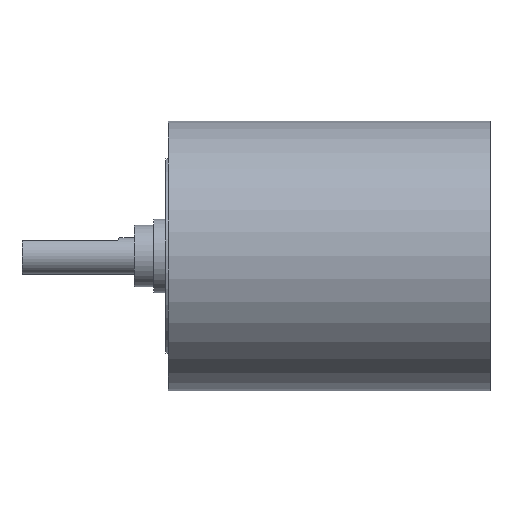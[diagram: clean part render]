
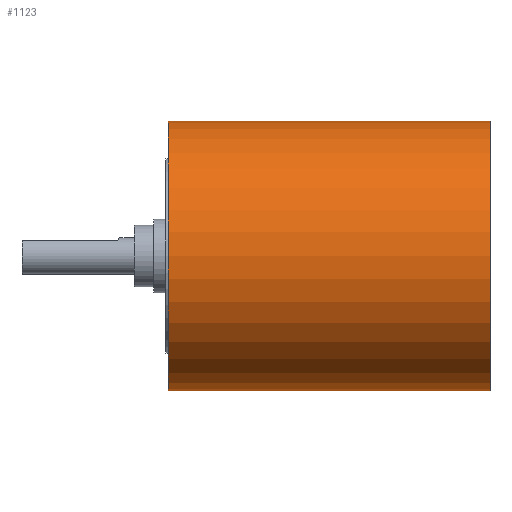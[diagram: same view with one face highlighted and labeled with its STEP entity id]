
A CAD part, top view. The second image highlights one B-rep face of the part: STEP entity #1123.
In plain terms, the highlighted cylindrical face has radius 11 mm (diameter 22 mm), a partial arc.
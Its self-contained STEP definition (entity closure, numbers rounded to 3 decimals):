
#6=CARTESIAN_POINT('',(0.2,0.,0.));
#7=DIRECTION('',(1.,0.,0.));
#8=DIRECTION('',(0.,1.,0.));
#9=AXIS2_PLACEMENT_3D('',#6,#7,#8);
#365=DIRECTION('',(-1.,0.,0.));
#366=VECTOR('',#365,26.25);
#367=CARTESIAN_POINT('',(26.45,11.,0.));
#368=LINE('',#367,#366);
#369=DIRECTION('',(-1.,0.,0.));
#370=VECTOR('',#369,26.25);
#371=CARTESIAN_POINT('',(26.45,-11.,0.));
#372=LINE('',#371,#370);
#378=CARTESIAN_POINT('',(26.45,0.,0.));
#379=DIRECTION('',(1.,0.,0.));
#380=DIRECTION('',(0.,1.,0.));
#381=AXIS2_PLACEMENT_3D('',#378,#379,#380);
#419=CARTESIAN_POINT('',(26.45,11.,0.));
#420=CARTESIAN_POINT('',(0.2,11.,0.));
#421=VERTEX_POINT('',#419);
#422=VERTEX_POINT('',#420);
#435=CARTESIAN_POINT('',(26.45,-11.,0.));
#436=CARTESIAN_POINT('',(0.2,-11.,0.));
#437=VERTEX_POINT('',#435);
#438=VERTEX_POINT('',#436);
#1111=CARTESIAN_POINT('',(-11.75,0.,0.));
#1112=DIRECTION('',(1.,0.,0.));
#1113=DIRECTION('',(0.,-1.,0.));
#1114=AXIS2_PLACEMENT_3D('',#1111,#1112,#1113);
#1115=CYLINDRICAL_SURFACE('',#1114,11.);
#1116=ORIENTED_EDGE('',*,*,#1101,.F.);
#1118=ORIENTED_EDGE('',*,*,#1117,.T.);
#1119=ORIENTED_EDGE('',*,*,#1104,.T.);
#1120=ORIENTED_EDGE('',*,*,#533,.F.);
#1121=EDGE_LOOP('',(#1116,#1118,#1119,#1120));
#1122=FACE_OUTER_BOUND('',#1121,.F.);
#1123=ADVANCED_FACE('',(#1122),#1115,.T.);
#10=CIRCLE('',#9,11.);
#382=CIRCLE('',#381,11.);
#533=EDGE_CURVE('',#422,#438,#10,.T.);
#1101=EDGE_CURVE('',#421,#422,#368,.T.);
#1104=EDGE_CURVE('',#437,#438,#372,.T.);
#1117=EDGE_CURVE('',#421,#437,#382,.T.);
